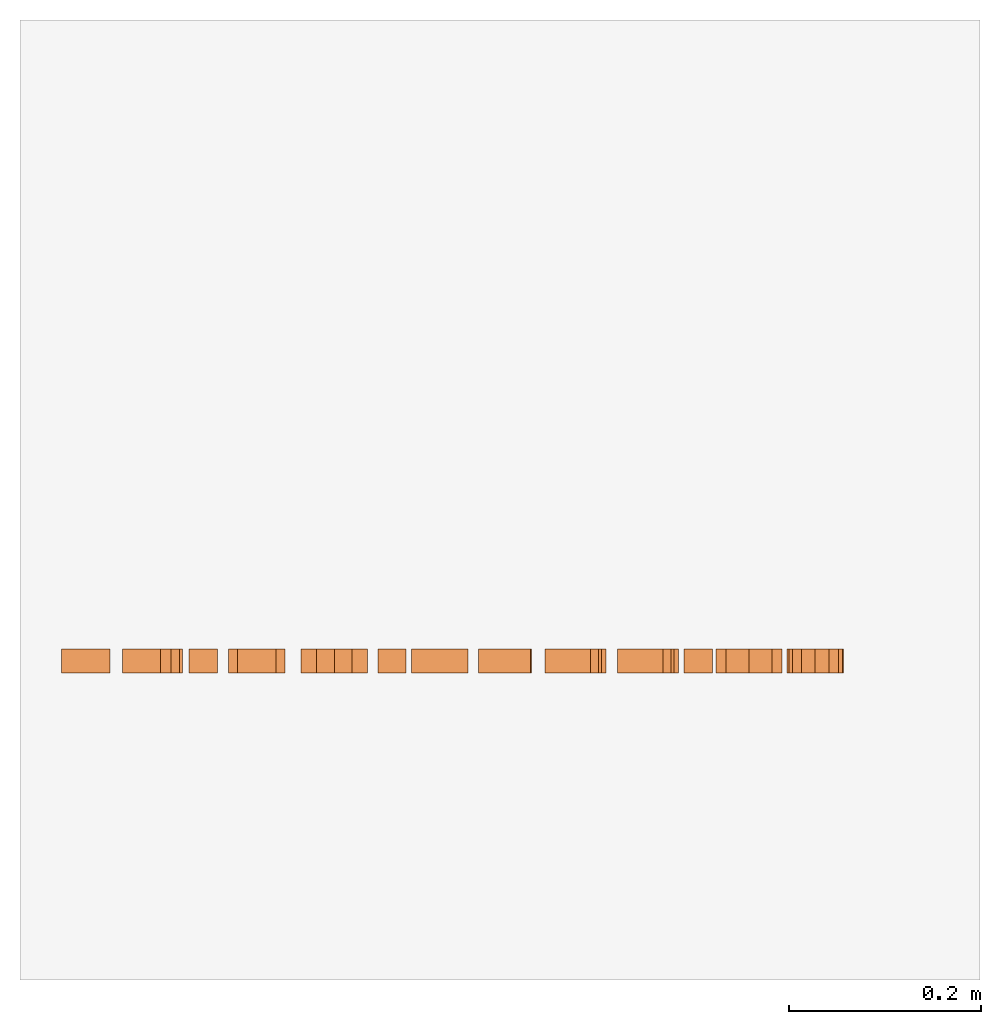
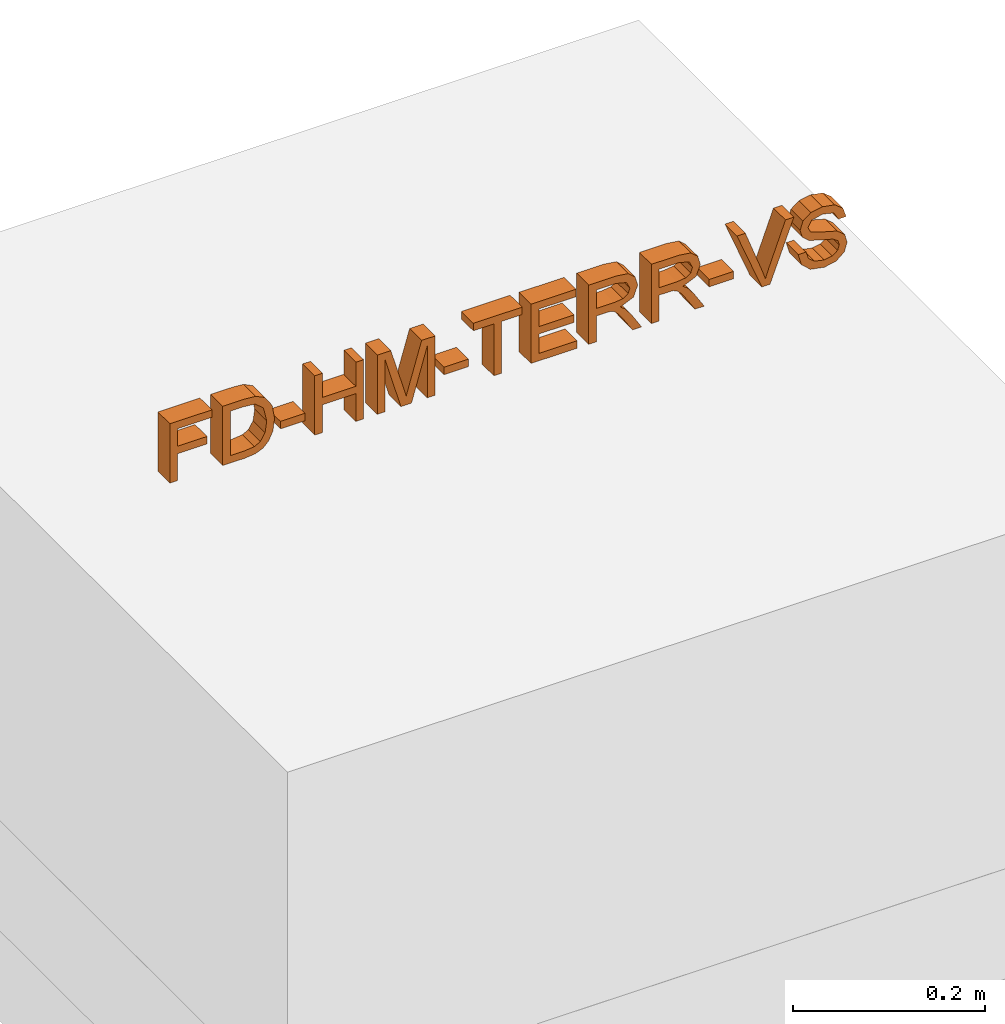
# Not in any storey, part 2 of 2: 1 proxy.
"""IFC4 model written with IfcOpenShell, lengths in metres."""

from ifc_helpers import new_model, entity, si_unit, converted_unit, derived_unit, direction, frame, origin, place, context, subcontext, project, spatial, indexed_curve, outline, extrude, type_object, element, save


model = new_model("IFC4")

# Units and contexts
model_context = context("Model", 3, precision=1e-05, world=origin(), true_north=direction((6.123031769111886e-17, 1.0)))
body_context = subcontext(model_context, "Body", "Model", "MODEL_VIEW")
ifc_project = project(units=[si_unit("LENGTHUNIT", "METRE"), si_unit("AREAUNIT", "SQUARE_METRE"), si_unit("VOLUMEUNIT", "CUBIC_METRE"), converted_unit("PLANEANGLEUNIT", "DEGREE", entity("IfcRatioMeasure", 0.017453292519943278), si_unit("PLANEANGLEUNIT", "RADIAN"), dimensions=[0, 0, 0, 0, 0, 0, 0]), si_unit("MASSUNIT", "GRAM", prefix="KILO"), derived_unit("MASSDENSITYUNIT", [(si_unit("MASSUNIT", "GRAM", prefix="KILO"), 1), (si_unit("LENGTHUNIT", "METRE"), -3)]), derived_unit("IONCONCENTRATIONUNIT", [(si_unit("MASSUNIT", "GRAM", prefix="KILO"), 1), (si_unit("LENGTHUNIT", "METRE"), -3)]), derived_unit("MOMENTOFINERTIAUNIT", [(si_unit("LENGTHUNIT", "METRE"), 4)]), si_unit("TIMEUNIT", "SECOND"), si_unit("FREQUENCYUNIT", "HERTZ"), si_unit("THERMODYNAMICTEMPERATUREUNIT", "DEGREE_CELSIUS"), derived_unit("THERMALTRANSMITTANCEUNIT", [(si_unit("MASSUNIT", "GRAM", prefix="KILO"), 1), (si_unit("THERMODYNAMICTEMPERATUREUNIT", "KELVIN"), -1), (si_unit("TIMEUNIT", "SECOND"), -3)]), derived_unit("THERMALCONDUCTANCEUNIT", [(si_unit("MASSUNIT", "GRAM", prefix="KILO"), 1), (si_unit("THERMODYNAMICTEMPERATUREUNIT", "KELVIN"), -1), (si_unit("TIMEUNIT", "SECOND"), -3), (si_unit("LENGTHUNIT", "METRE"), 1)]), derived_unit("VOLUMETRICFLOWRATEUNIT", [(si_unit("LENGTHUNIT", "METRE"), 3), (si_unit("TIMEUNIT", "SECOND"), -1)]), derived_unit("MASSFLOWRATEUNIT", [(si_unit("MASSUNIT", "GRAM", prefix="KILO"), 1), (si_unit("TIMEUNIT", "SECOND"), -1)]), derived_unit("ROTATIONALFREQUENCYUNIT", [(si_unit("TIMEUNIT", "SECOND"), -1)]), si_unit("ELECTRICCURRENTUNIT", "AMPERE"), si_unit("ELECTRICVOLTAGEUNIT", "VOLT"), si_unit("POWERUNIT", "WATT"), si_unit("FORCEUNIT", "NEWTON", prefix="KILO"), si_unit("ILLUMINANCEUNIT", "LUX"), si_unit("LUMINOUSFLUXUNIT", "LUMEN"), si_unit("LUMINOUSINTENSITYUNIT", "CANDELA"), derived_unit("USERDEFINED", [(si_unit("MASSUNIT", "GRAM", prefix="KILO"), -1), (si_unit("LENGTHUNIT", "METRE"), -2), (si_unit("TIMEUNIT", "SECOND"), 3), (si_unit("LUMINOUSFLUXUNIT", "LUMEN"), 1)]), derived_unit("USERDEFINED", [(si_unit("MASSUNIT", "GRAM", prefix="KILO"), 1), (si_unit("TIMEUNIT", "SECOND"), -3), (si_unit("LENGTHUNIT", "METRE"), 3), (si_unit("ELECTRICCURRENTUNIT", "AMPERE"), -2)]), derived_unit("SOUNDPOWERUNIT", [(si_unit("MASSUNIT", "GRAM", prefix="KILO"), 1), (si_unit("TIMEUNIT", "SECOND"), -3), (si_unit("LENGTHUNIT", "METRE"), 2)]), derived_unit("SOUNDPRESSUREUNIT", [(si_unit("MASSUNIT", "GRAM", prefix="KILO"), 1), (si_unit("LENGTHUNIT", "METRE"), -1), (si_unit("TIMEUNIT", "SECOND"), -2)]), derived_unit("LINEARVELOCITYUNIT", [(si_unit("LENGTHUNIT", "METRE"), 1), (si_unit("TIMEUNIT", "SECOND"), -1)]), si_unit("PRESSUREUNIT", "PASCAL"), derived_unit("USERDEFINED", [(si_unit("MASSUNIT", "GRAM", prefix="KILO"), 1), (si_unit("LENGTHUNIT", "METRE"), -2), (si_unit("TIMEUNIT", "SECOND"), -2)]), derived_unit("LINEARFORCEUNIT", [(si_unit("MASSUNIT", "GRAM", prefix="KILO"), 1), (si_unit("TIMEUNIT", "SECOND"), -2)]), derived_unit("PLANARFORCEUNIT", [(si_unit("MASSUNIT", "GRAM", prefix="KILO"), 1), (si_unit("LENGTHUNIT", "METRE"), -1), (si_unit("TIMEUNIT", "SECOND"), -2)]), derived_unit("SPECIFICHEATCAPACITYUNIT", [(si_unit("THERMODYNAMICTEMPERATUREUNIT", "KELVIN"), -1), (si_unit("LENGTHUNIT", "METRE"), 2), (si_unit("TIMEUNIT", "SECOND"), -2)]), derived_unit("HEATINGVALUEUNIT", [(si_unit("LENGTHUNIT", "METRE"), 2), (si_unit("TIMEUNIT", "SECOND"), -2)]), derived_unit("VAPORPERMEABILITYUNIT", [(si_unit("LENGTHUNIT", "METRE"), -1), (si_unit("TIMEUNIT", "SECOND"), 1)]), derived_unit("DYNAMICVISCOSITYUNIT", [(si_unit("MASSUNIT", "GRAM", prefix="KILO"), 1), (si_unit("TIMEUNIT", "SECOND"), -1), (si_unit("LENGTHUNIT", "METRE"), -1)]), derived_unit("THERMALEXPANSIONCOEFFICIENTUNIT", [(si_unit("THERMODYNAMICTEMPERATUREUNIT", "KELVIN"), -1)]), derived_unit("MODULUSOFELASTICITYUNIT", [(si_unit("MASSUNIT", "GRAM", prefix="KILO"), 1), (si_unit("LENGTHUNIT", "METRE"), -1), (si_unit("TIMEUNIT", "SECOND"), -2)]), derived_unit("ISOTHERMALMOISTURECAPACITYUNIT", [(si_unit("LENGTHUNIT", "METRE"), 3), (si_unit("MASSUNIT", "GRAM", prefix="KILO"), -1)]), derived_unit("MOISTUREDIFFUSIVITYUNIT", [(si_unit("TIMEUNIT", "SECOND"), -1), (si_unit("LENGTHUNIT", "METRE"), 2)])], contexts=[model_context])

# Site
site_placement = place(None, origin())
site = spatial("IfcSite", under=ifc_project, at=site_placement, Name="Default", CompositionType="ELEMENT")

# Proxy
building_element_proxy_type = type_object("IfcBuildingElementProxyType", Name="Modelltext:075mm Arial", PredefinedType="NOTDEFINED")
proxy_placement = place(site_placement, origin())
element("IfcBuildingElementProxy", 1, at=proxy_placement, inside=site, type_object=building_element_proxy_type, Name="Modelltext:075mm Arial", ObjectType="Modelltext:075mm Arial", PredefinedType="NOTDEFINED", context=body_context, shape_type="SweptSolid", body=[
    extrude(outline(indexed_curve([(-0.04379267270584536, -0.02283811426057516), (0.03154955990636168, -0.02283811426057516), (0.03154955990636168, 0.027782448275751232), (0.022131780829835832, 0.027782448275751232), (0.022131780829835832, -0.01342033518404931), (-0.00023544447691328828, -0.01342033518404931), (-0.00023544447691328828, 0.021896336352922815), (-0.009653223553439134, 0.021896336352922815), (-0.009653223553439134, -0.01342033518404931), (-0.04379267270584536, -0.01342033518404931), (-0.04379267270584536, -0.02283811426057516)], self_intersect=False)), frame((2.4421634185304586, 42.834392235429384, 2.1383182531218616), z_axis=(0.0, 1.0, 0.0), x_axis=(0.0, 0.0, 1.0)), (0.0, 0.0, 1.0), 0.025000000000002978),
    extrude(outline(indexed_curve([(-0.03575046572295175, -0.03902844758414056), (0.039591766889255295, -0.03902844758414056), (0.039591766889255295, -0.013037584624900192), (0.03850651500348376, 0.00040850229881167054), (0.03311704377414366, 0.011481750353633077), (0.02024117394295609, 0.020402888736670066), (0.002325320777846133, 0.02336433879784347), (-0.01287740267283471, 0.021359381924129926), (-0.023849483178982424, 0.01620903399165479), (-0.030682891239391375, 0.00932964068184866), (-0.0344628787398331, 0.00032572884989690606), (-0.03575046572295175, -0.011786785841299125), (-0.03575046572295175, -0.03902844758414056)], self_intersect=False), holes=[indexed_curve([(-0.0263326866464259, -0.029610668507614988), (-0.0263326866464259, -0.012945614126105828), (-0.024971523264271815, -0.0008239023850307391), (-0.021127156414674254, 0.006165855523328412), (-0.011773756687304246, 0.0118956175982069), (0.002472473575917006, 0.013946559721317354), (0.020314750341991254, 0.009927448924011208), (0.02866567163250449, 0.0001509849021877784), (0.03017398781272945, -0.01320313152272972), (0.03017398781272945, -0.029610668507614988), (-0.0263326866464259, -0.029610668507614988)], self_intersect=False)]), frame((2.5219237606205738, 42.834392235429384, 2.130276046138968), z_axis=(0.0, 1.0, 0.0), x_axis=(0.0, 0.0, 1.0)), (0.0, 0.0, 1.0), 0.025000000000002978),
    extrude(outline(indexed_curve([(-0.01249999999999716, -0.014715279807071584), (0.01250000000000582, -0.014715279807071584), (0.01250000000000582, 0.014715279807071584), (-0.01249999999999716, 0.014715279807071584), (-0.01249999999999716, -0.014715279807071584)], self_intersect=False)), frame((2.567066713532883, 42.84689223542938, 2.116892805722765), z_axis=(0.0, 0.0, 1.0), x_axis=(0.0, 1.0, 0.0)), (0.0, 0.0, 1.0), 0.009417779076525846),
    extrude(outline(indexed_curve([(-0.03845593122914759, -0.02943055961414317), (0.03688630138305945, -0.02943055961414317), (0.03688630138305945, -0.020012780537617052), (0.006278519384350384, -0.020012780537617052), (0.006278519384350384, 0.020012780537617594), (0.03688630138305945, 0.020012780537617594), (0.03688630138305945, 0.02943055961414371), (-0.03845593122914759, 0.02943055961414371), (-0.03845593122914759, 0.020012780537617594), (-0.0031392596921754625, 0.020012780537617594), (-0.0031392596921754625, -0.020012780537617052), (-0.03845593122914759, -0.020012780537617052), (-0.03845593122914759, -0.02943055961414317)], self_intersect=False)), frame((2.6229847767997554, 42.834392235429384, 2.132981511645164), z_axis=(0.0, 1.0, 0.0), x_axis=(0.0, 0.0, 1.0)), (0.0, 0.0, 1.0), 0.025000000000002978),
    extrude(outline(indexed_curve([(-0.032650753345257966, -0.034745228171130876), (0.04269147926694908, -0.034745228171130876), (0.04269147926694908, -0.01854002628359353), (-0.010412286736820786, -0.00312577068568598), (-0.021503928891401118, -1.7167826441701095e-05), (-0.009492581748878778, 0.0033489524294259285), (0.04269147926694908, 0.01850569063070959), (0.04269147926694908, 0.03471089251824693), (-0.032650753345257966, 0.03471089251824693), (-0.032650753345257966, 0.02529311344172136), (0.03327370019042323, 0.02529311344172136), (-0.032650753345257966, 0.006365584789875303), (-0.032650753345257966, -0.006399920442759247), (0.03327370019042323, -0.0253274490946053), (-0.032650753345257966, -0.0253274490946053), (-0.032650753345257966, -0.034745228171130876)], self_intersect=False)), frame((2.7036416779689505, 42.834392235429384, 2.127176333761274), z_axis=(0.0, 1.0, 0.0), x_axis=(0.0, 0.0, 1.0)), (0.0, 0.0, 1.0), 0.025000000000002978),
    extrude(outline(indexed_curve([(-0.01249999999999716, -0.014715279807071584), (0.01250000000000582, -0.014715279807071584), (0.01250000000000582, 0.014715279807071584), (-0.01249999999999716, 0.014715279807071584), (-0.01249999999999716, -0.014715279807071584)], self_intersect=False)), frame((2.763662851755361, 42.84689223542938, 2.116892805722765), z_axis=(0.0, 0.0, 1.0), x_axis=(0.0, 1.0, 0.0)), (0.0, 0.0, 1.0), 0.009417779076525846),
    extrude(outline(indexed_curve([(-0.05179778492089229, 0.004708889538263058), (-0.05179778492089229, -0.004708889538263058), (0.014126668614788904, -0.004708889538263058), (0.014126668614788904, -0.02943055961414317), (0.02354444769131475, -0.02943055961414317), (0.02354444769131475, 0.02943055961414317), (0.014126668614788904, 0.02943055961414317), (0.014126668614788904, 0.004708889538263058), (-0.05179778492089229, 0.004708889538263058)], self_intersect=False)), frame((2.8136948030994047, 42.834392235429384, 2.1463233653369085), z_axis=(0.0, -1.0, 0.0), x_axis=(0.0, 0.0, 1.0)), (0.0, 0.0, -1.0), 0.025000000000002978),
    extrude(outline(indexed_curve([(-0.03806352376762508, -0.030019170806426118), (0.03727870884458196, -0.030019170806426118), (0.03727870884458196, 0.02413305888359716), (0.027860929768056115, 0.02413305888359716), (0.027860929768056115, -0.020601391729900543), (0.005493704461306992, -0.020601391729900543), (0.005493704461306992, 0.0217786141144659), (-0.003924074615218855, 0.0217786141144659), (-0.003924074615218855, -0.020601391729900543), (-0.028645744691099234, -0.020601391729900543), (-0.028645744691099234, 0.025310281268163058), (-0.03806352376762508, 0.025310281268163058), (-0.03806352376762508, -0.030019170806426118)], self_intersect=False)), frame((2.883739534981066, 42.834392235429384, 2.1325891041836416), z_axis=(0.0, 1.0, 0.0), x_axis=(0.0, 0.0, 1.0)), (0.0, 0.0, 1.0), 0.025000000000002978),
    extrude(outline(indexed_curve([(-0.03376914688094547, -0.035363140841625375), (0.041573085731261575, -0.035363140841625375), (0.041573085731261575, -0.002897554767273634), (0.03954053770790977, 0.012176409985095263), (0.032348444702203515, 0.02041696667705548), (0.020953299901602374, 0.023497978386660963), (0.007378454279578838, 0.018393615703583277), (0.0003703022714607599, 0.002620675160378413), (-0.0036580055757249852, 0.00797335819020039), (-0.01335169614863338, 0.015606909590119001), (-0.03376914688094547, 0.028170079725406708), (-0.03376914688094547, 0.017225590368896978), (-0.01815255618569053, 0.007421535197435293), (-0.007815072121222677, 0.00033980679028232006), (-0.0029314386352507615, -0.00463579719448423), (-0.0011380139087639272, -0.009114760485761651), (-0.0008069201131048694, -0.014577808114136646), (-0.0008069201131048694, -0.0259453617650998), (-0.03376914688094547, -0.0259453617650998), (-0.03376914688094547, -0.035363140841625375)], self_intersect=False), holes=[indexed_curve([(0.008610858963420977, -0.0259453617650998), (0.008610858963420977, -0.004865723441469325), (0.009944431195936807, 0.00588562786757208), (0.014211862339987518, 0.011992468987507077), (0.020603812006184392, 0.014080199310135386), (0.028899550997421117, 0.010097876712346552), (0.032155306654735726, -0.0024928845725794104), (0.032155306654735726, -0.0259453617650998), (0.008610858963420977, -0.0259453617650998)], self_intersect=False)]), frame((2.9585396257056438, 42.834392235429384, 2.1282947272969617), z_axis=(0.0, 1.0, 0.0), x_axis=(0.0, 0.0, 1.0)), (0.0, 0.0, 1.0), 0.025000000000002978),
    extrude(outline(indexed_curve([(-0.03376914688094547, -0.035363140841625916), (0.041573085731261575, -0.035363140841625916), (0.041573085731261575, -0.0028975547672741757), (0.03954053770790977, 0.012176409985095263), (0.032348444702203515, 0.02041696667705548), (0.020953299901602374, 0.023497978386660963), (0.007378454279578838, 0.018393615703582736), (0.0003703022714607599, 0.0026206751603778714), (-0.0036580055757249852, 0.00797335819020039), (-0.01335169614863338, 0.015606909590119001), (-0.03376914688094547, 0.028170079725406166), (-0.03376914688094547, 0.017225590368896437), (-0.01815255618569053, 0.007421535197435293), (-0.007815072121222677, 0.0003398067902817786), (-0.0029314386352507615, -0.00463579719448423), (-0.0011380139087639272, -0.009114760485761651), (-0.0008069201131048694, -0.014577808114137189), (-0.0008069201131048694, -0.0259453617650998), (-0.03376914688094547, -0.0259453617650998), (-0.03376914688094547, -0.035363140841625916)], self_intersect=False), holes=[indexed_curve([(0.008610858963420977, -0.0259453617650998), (0.008610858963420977, -0.0048657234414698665), (0.009944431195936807, 0.00588562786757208), (0.014211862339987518, 0.011992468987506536), (0.020603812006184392, 0.014080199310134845), (0.028899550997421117, 0.01009787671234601), (0.032155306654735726, -0.0024928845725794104), (0.032155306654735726, -0.0259453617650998), (0.008610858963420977, -0.0259453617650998)], self_intersect=False)]), frame((3.033881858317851, 42.834392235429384, 2.1282947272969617), z_axis=(0.0, 1.0, 0.0), x_axis=(0.0, 0.0, 1.0)), (0.0, 0.0, 1.0), 0.025000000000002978),
    extrude(outline(indexed_curve([(-0.01249999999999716, -0.014715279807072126), (0.01250000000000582, -0.014715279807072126), (0.01250000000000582, 0.014715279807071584), (-0.01249999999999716, 0.014715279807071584), (-0.01249999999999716, -0.014715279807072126)], self_intersect=False)), frame((3.0826901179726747, 42.84689223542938, 2.116892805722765), z_axis=(0.0, 0.0, 1.0), x_axis=(0.0, 1.0, 0.0)), (0.0, 0.0, 1.0), 0.009417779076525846),
    extrude(outline(indexed_curve([(-0.03475834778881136, -0.01853056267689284), (0.04633046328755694, -0.018530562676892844), (0.04260342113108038, -0.009164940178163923), (-0.01525087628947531, -0.01058940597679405), (-0.028119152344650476, -0.011335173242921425), (-0.01823659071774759, -0.003086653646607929), (0.024757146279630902, 0.03568066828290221), (0.021030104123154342, 0.045046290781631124), (-0.038356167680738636, -0.00948966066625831), (-0.03475834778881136, -0.01853056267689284)], self_intersect=False)), frame((3.135800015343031, 42.834392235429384, 2.133672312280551), z_axis=(0.0, 1.0, 0.0), x_axis=(-0.36974746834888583, 0.0, 0.9291322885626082)), (0.0, 0.0, 1.0), 0.025000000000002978),
    extrude(outline(indexed_curve([(-0.03029298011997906, 0.011054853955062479), (-0.020875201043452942, 0.011054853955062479), (-0.01784017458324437, 0.020481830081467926), (-0.010427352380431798, 0.02644151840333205), (0.0008666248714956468, 0.028713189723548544), (0.010707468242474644, 0.026993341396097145), (0.01706262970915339, 0.02226605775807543), (0.0191503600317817, 0.015947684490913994), (0.017586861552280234, 0.010070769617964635), (0.011185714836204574, 0.005794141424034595), (-0.002527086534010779, 0.0021980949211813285), (-0.017288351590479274, -0.0024464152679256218), (-0.025298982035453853, -0.0094545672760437), (-0.027938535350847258, -0.018817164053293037), (-0.02467358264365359, -0.02947654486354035), (-0.015136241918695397, -0.036999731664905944), (-0.0011751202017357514, -0.03956570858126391), (0.013724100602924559, -0.036880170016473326), (0.02365691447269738, -0.02898910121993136), (0.02739091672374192, -0.01719848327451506), (0.017973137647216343, -0.01719848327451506), (0.012638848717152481, -0.0268737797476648), (-0.00080723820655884, -0.030147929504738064), (-0.014290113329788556, -0.02691056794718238), (-0.018520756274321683, -0.019093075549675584), (-0.015522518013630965, -0.012563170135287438), (-0.0001450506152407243, -0.007302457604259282), (0.016520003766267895, -0.002575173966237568), (0.025634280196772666, 0.005058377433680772), (0.028568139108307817, 0.01570856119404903), (0.02519282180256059, 0.026974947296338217), (0.01548073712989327, 0.03519710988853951), (0.0012345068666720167, 0.03813096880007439), (-0.015586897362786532, 0.03496718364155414), (-0.02622788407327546, 0.025439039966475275), (-0.03029298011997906, 0.011054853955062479)], self_intersect=False)), frame((3.205395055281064, 42.834392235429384, 2.131479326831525), z_axis=(0.0, 1.0, 0.0), x_axis=(1.0, 0.0, 0.0)), (0.0, 0.0, 1.0), 0.025000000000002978),
])

save(model, "model.ifc")
